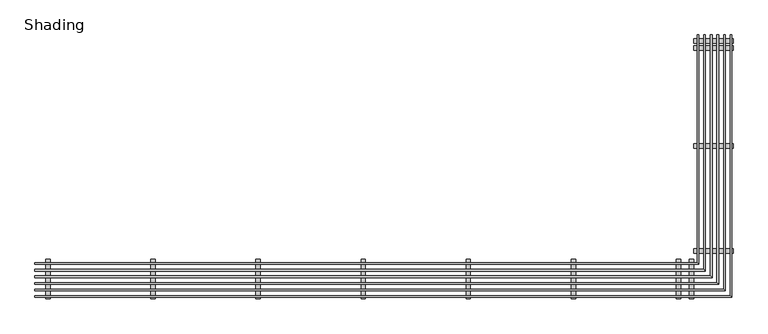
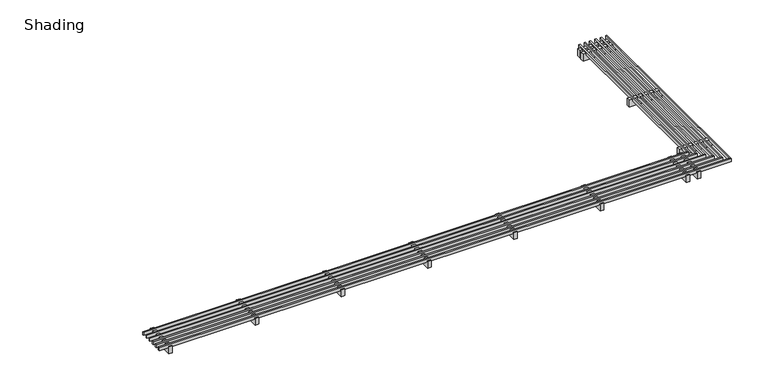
"""IFC4 building model written with IfcOpenShell, lengths in millimetres: railing geometry, Shading."""

from ifc_helpers import new_model, si_unit, frame, origin, place, context, project, spatial, polyline, outline, extrude, faceted_brep, source, transform, mapped, element, save


def shading_9790fc35(model_context):
    return source(origin(), model_context, "Body", "SolidModel", [
        faceted_brep([(-10676.9717693, 5141.4900612, 3092.45), (-10676.9717693, 5179.5900612, 3092.45), (-10676.9717693, 5179.5900612, 3003.55), (-10676.9717693, 5141.4900612, 3003.55), (5496.4782307, 5141.4900612, 3003.55), (5496.4782307, 5141.4900612, 3092.45), (5458.3782307, 5179.5900612, 3003.55), (5458.3782307, 5179.5900612, 3092.45), (5496.4782307, 11231.1400612, 3092.45), (5496.4782307, 11231.1400612, 3003.55), (5458.3782307, 11231.1400612, 3003.55), (5458.3782307, 11231.1400612, 3092.45)], [[[0, 1, 2, 3]], [[0, 3, 4, 5]], [[3, 2, 6, 4]], [[2, 1, 7, 6]], [[1, 0, 5, 7]], [[8, 9, 10, 11]], [[7, 5, 8, 11]], [[6, 7, 11, 10]], [[4, 6, 10, 9]], [[5, 4, 9, 8]]]),
        faceted_brep([(-10676.9717693, 5293.8900612, 3092.45), (-10676.9717693, 5331.9900612, 3092.45), (-10676.9717693, 5331.9900612, 3003.55), (-10676.9717693, 5293.8900612, 3003.55), (5344.0782307, 5293.8900612, 3003.55), (5344.0782307, 5293.8900612, 3092.45), (5305.9782307, 5331.9900612, 3003.55), (5305.9782307, 5331.9900612, 3092.45), (5344.0782307, 11231.1400612, 3092.45), (5344.0782307, 11231.1400612, 3003.55), (5305.9782307, 11231.1400612, 3003.55), (5305.9782307, 11231.1400612, 3092.45)], [[[0, 1, 2, 3]], [[0, 3, 4, 5]], [[3, 2, 6, 4]], [[2, 1, 7, 6]], [[1, 0, 5, 7]], [[8, 9, 10, 11]], [[7, 5, 8, 11]], [[6, 7, 11, 10]], [[4, 6, 10, 9]], [[5, 4, 9, 8]]]),
        faceted_brep([(-10676.9717693, 5446.2900612, 3092.45), (-10676.9717693, 5484.3900612, 3092.45), (-10676.9717693, 5484.3900612, 3003.55), (-10676.9717693, 5446.2900612, 3003.55), (5191.6782307, 5446.2900612, 3003.55), (5191.6782307, 5446.2900612, 3092.45), (5153.5782307, 5484.3900612, 3003.55), (5153.5782307, 5484.3900612, 3092.45), (5191.6782307, 11231.1400612, 3092.45), (5191.6782307, 11231.1400612, 3003.55), (5153.5782307, 11231.1400612, 3003.55), (5153.5782307, 11231.1400612, 3092.45)], [[[0, 1, 2, 3]], [[0, 3, 4, 5]], [[3, 2, 6, 4]], [[2, 1, 7, 6]], [[1, 0, 5, 7]], [[8, 9, 10, 11]], [[7, 5, 8, 11]], [[6, 7, 11, 10]], [[4, 6, 10, 9]], [[5, 4, 9, 8]]]),
        faceted_brep([(-10676.9717693, 5598.6900612, 3092.45), (-10676.9717693, 5636.7900612, 3092.45), (-10676.9717693, 5636.7900612, 3003.55), (-10676.9717693, 5598.6900612, 3003.55), (5039.2782307, 5598.6900612, 3003.55), (5039.2782307, 5598.6900612, 3092.45), (5001.1782307, 5636.7900612, 3003.55), (5001.1782307, 5636.7900612, 3092.45), (5039.2782307, 11231.1400612, 3092.45), (5039.2782307, 11231.1400612, 3003.55), (5001.1782307, 11231.1400612, 3003.55), (5001.1782307, 11231.1400612, 3092.45)], [[[0, 1, 2, 3]], [[0, 3, 4, 5]], [[3, 2, 6, 4]], [[2, 1, 7, 6]], [[1, 0, 5, 7]], [[8, 9, 10, 11]], [[7, 5, 8, 11]], [[6, 7, 11, 10]], [[4, 6, 10, 9]], [[5, 4, 9, 8]]]),
        faceted_brep([(-10676.9717693, 5751.0900612, 3092.45), (-10676.9717693, 5789.1900612, 3092.45), (-10676.9717693, 5789.1900612, 3003.55), (-10676.9717693, 5751.0900612, 3003.55), (4886.8782307, 5751.0900612, 3003.55), (4886.8782307, 5751.0900612, 3092.45), (4848.7782307, 5789.1900612, 3003.55), (4848.7782307, 5789.1900612, 3092.45), (4886.8782307, 11231.1400612, 3092.45), (4886.8782307, 11231.1400612, 3003.55), (4848.7782307, 11231.1400612, 3003.55), (4848.7782307, 11231.1400612, 3092.45)], [[[0, 1, 2, 3]], [[0, 3, 4, 5]], [[3, 2, 6, 4]], [[2, 1, 7, 6]], [[1, 0, 5, 7]], [[8, 9, 10, 11]], [[7, 5, 8, 11]], [[6, 7, 11, 10]], [[4, 6, 10, 9]], [[5, 4, 9, 8]]]),
        faceted_brep([(-10676.9717693, 5903.4900612, 3092.45), (-10676.9717693, 5941.5900612, 3092.45), (-10676.9717693, 5941.5900612, 3003.55), (-10676.9717693, 5903.4900612, 3003.55), (4734.4782307, 5903.4900612, 3003.55), (4734.4782307, 5903.4900612, 3092.45), (4696.3782307, 5941.5900612, 3003.55), (4696.3782307, 5941.5900612, 3092.45), (4734.4782307, 11231.1400612, 3092.45), (4734.4782307, 11231.1400612, 3003.55), (4696.3782307, 11231.1400612, 3003.55), (4696.3782307, 11231.1400612, 3092.45)], [[[0, 1, 2, 3]], [[0, 3, 4, 5]], [[3, 2, 6, 4]], [[2, 1, 7, 6]], [[1, 0, 5, 7]], [[8, 9, 10, 11]], [[7, 5, 8, 11]], [[6, 7, 11, 10]], [[4, 6, 10, 9]], [[5, 4, 9, 8]]]),
        extrude(outline(polyline([(5528.2282307, 11040.6400612), (4613.8282307, 11040.6400612), (4613.8282307, 11142.2400612), (5528.2282307, 11142.2400612), (5528.2282307, 11040.6400612)])), frame((0.0, 0.0, 2844.8), z_axis=(0.0, 0.0, 1.0), x_axis=(1.0, 0.0, 0.0)), (0.0, 0.0, 1.0), 203.2),
        extrude(outline(polyline([(5528.2282307, 8602.2400612), (4613.8282307, 8602.2400612), (4613.8282307, 8703.8400612), (5528.2282307, 8703.8400612), (5528.2282307, 8602.2400612)])), frame((0.0, 0.0, 2844.8), z_axis=(0.0, 0.0, 1.0), x_axis=(1.0, 0.0, 0.0)), (0.0, 0.0, 1.0), 203.2),
        extrude(outline(polyline([(5528.2282307, 6163.8400612), (4613.8282307, 6163.8400612), (4613.8282307, 6265.4400612), (5528.2282307, 6265.4400612), (5528.2282307, 6163.8400612)])), frame((0.0, 0.0, 2844.8), z_axis=(0.0, 0.0, 1.0), x_axis=(1.0, 0.0, 0.0)), (0.0, 0.0, 1.0), 203.2),
        extrude(outline(polyline([(4207.4282307, 5109.7400612), (4207.4282307, 6024.1400612), (4309.0282307, 6024.1400612), (4309.0282307, 5109.7400612), (4207.4282307, 5109.7400612)])), frame((0.0, 0.0, 2844.8), z_axis=(0.0, 0.0, 1.0), x_axis=(1.0, 0.0, 0.0)), (0.0, 0.0, 1.0), 203.2),
        extrude(outline(polyline([(1769.0282307, 5109.7400612), (1769.0282307, 6024.1400612), (1870.6282307, 6024.1400612), (1870.6282307, 5109.7400612), (1769.0282307, 5109.7400612)])), frame((0.0, 0.0, 2844.8), z_axis=(0.0, 0.0, 1.0), x_axis=(1.0, 0.0, 0.0)), (0.0, 0.0, 1.0), 203.2),
        extrude(outline(polyline([(-669.3717693, 5109.7400612), (-669.3717693, 6024.1400612), (-567.7717693, 6024.1400612), (-567.7717693, 5109.7400612), (-669.3717693, 5109.7400612)])), frame((0.0, 0.0, 2844.8), z_axis=(0.0, 0.0, 1.0), x_axis=(1.0, 0.0, 0.0)), (0.0, 0.0, 1.0), 203.2),
        extrude(outline(polyline([(-3107.7717693, 5109.7400612), (-3107.7717693, 6024.1400612), (-3006.1717693, 6024.1400612), (-3006.1717693, 5109.7400612), (-3107.7717693, 5109.7400612)])), frame((0.0, 0.0, 2844.8), z_axis=(0.0, 0.0, 1.0), x_axis=(1.0, 0.0, 0.0)), (0.0, 0.0, 1.0), 203.2),
        extrude(outline(polyline([(-5546.1717693, 5109.7400612), (-5546.1717693, 6024.1400612), (-5444.5717693, 6024.1400612), (-5444.5717693, 5109.7400612), (-5546.1717693, 5109.7400612)])), frame((0.0, 0.0, 2844.8), z_axis=(0.0, 0.0, 1.0), x_axis=(1.0, 0.0, 0.0)), (0.0, 0.0, 1.0), 203.2),
        extrude(outline(polyline([(-7984.5717693, 5109.7400612), (-7984.5717693, 6024.1400612), (-7882.9717693, 6024.1400612), (-7882.9717693, 5109.7400612), (-7984.5717693, 5109.7400612)])), frame((0.0, 0.0, 2844.8), z_axis=(0.0, 0.0, 1.0), x_axis=(1.0, 0.0, 0.0)), (0.0, 0.0, 1.0), 203.2),
        extrude(outline(polyline([(-10422.9717693, 5109.7400612), (-10422.9717693, 6024.1400612), (-10321.3717693, 6024.1400612), (-10321.3717693, 5109.7400612), (-10422.9717693, 5109.7400612)])), frame((0.0, 0.0, 2844.8), z_axis=(0.0, 0.0, 1.0), x_axis=(1.0, 0.0, 0.0)), (0.0, 0.0, 1.0), 203.2),
        extrude(outline(polyline([(4512.2282307, 5109.7400612), (4512.2282307, 6024.1400612), (4613.8282307, 6024.1400612), (4613.8282307, 5109.7400612), (4512.2282307, 5109.7400612)])), frame((0.0, 0.0, 2844.8), z_axis=(0.0, 0.0, 1.0), x_axis=(1.0, 0.0, 0.0)), (0.0, 0.0, 1.0), 203.2),
        extrude(outline(polyline([(5528.2282307, 10875.5400612), (4613.8282307, 10875.5400612), (4613.8282307, 10977.1400612), (5528.2282307, 10977.1400612), (5528.2282307, 10875.5400612)])), frame((0.0, 0.0, 2844.8), z_axis=(0.0, 0.0, 1.0), x_axis=(1.0, 0.0, 0.0)), (0.0, 0.0, 1.0), 203.2),
        extrude(outline(polyline([(-10422.9717693, 5109.7400612), (-10422.9717693, 6024.1400612), (-10321.3717693, 6024.1400612), (-10321.3717693, 5109.7400612), (-10422.9717693, 5109.7400612)])), frame((0.0, 0.0, 2844.8), z_axis=(0.0, 0.0, 1.0), x_axis=(1.0, 0.0, 0.0)), (0.0, 0.0, 1.0), 203.2),
    ])


if __name__ == "__main__":
    model = new_model("IFC4")
    model_context = context("Model", 3, world=origin())
    ifc_project = project(units=[si_unit("LENGTHUNIT", "METRE", prefix="MILLI")], contexts=[model_context])
    site = spatial("IfcSite", under=ifc_project)
    building = spatial("IfcBuilding", under=site)
    placement = place(None, origin())
    shading_shape = shading_9790fc35(model_context)
    element("IfcRailing", 1, ObjectType="Shading", at=placement, inside=building, context=model_context, shape_type="MappedRepresentation", body=[
        mapped(shading_shape, transform((0.0, 0.0, 0.0), x_axis=(1.0, 0.0, 0.0), y_axis=(0.0, 1.0, 0.0), z_axis=(0.0, 0.0, 1.0))),
    ])
    save(model, "model.ifc")
